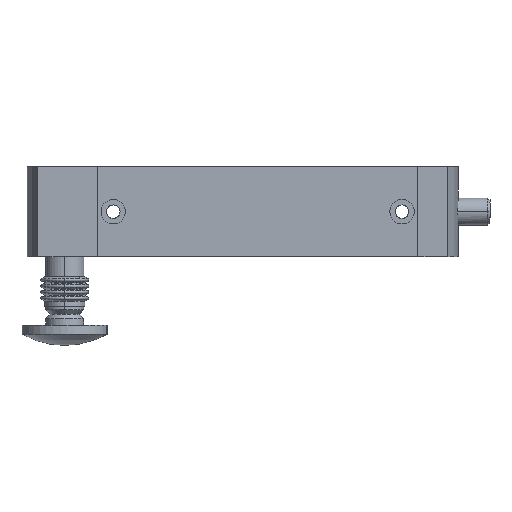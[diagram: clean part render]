
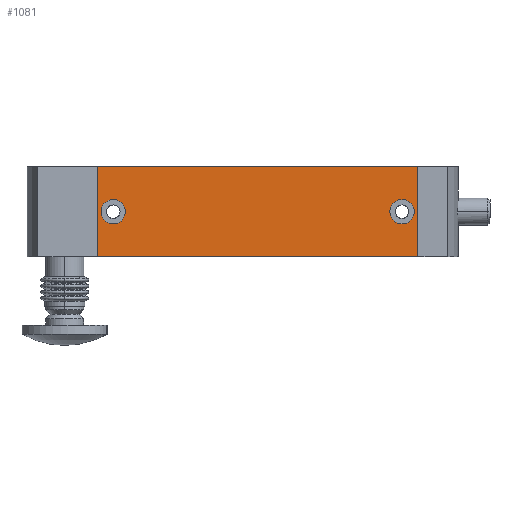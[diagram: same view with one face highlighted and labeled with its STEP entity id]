
A CAD part, left-side view. The second image highlights one B-rep face of the part: STEP entity #1081.
In plain terms, the highlighted planar face has unit normal (-1, 0, 0) as drawn and (0, 0, -1) by its records, which use the part's own axes.
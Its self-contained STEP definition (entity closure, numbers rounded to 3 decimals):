
#36 = AXIS2_PLACEMENT_3D ( 'NONE', #4658, #166, #5397 ) ;
#160 = EDGE_CURVE ( 'NONE', #4403, #347, #9319, .T. ) ;
#166 = DIRECTION ( 'NONE',  ( 0., 0., -1. ) ) ;
#256 = ORIENTED_EDGE ( 'NONE', *, *, #3682, .F. ) ;
#272 = CARTESIAN_POINT ( 'NONE',  ( -58.6, 0., -20. ) ) ;
#347 = VERTEX_POINT ( 'NONE', #2552 ) ;
#552 = DIRECTION ( 'NONE',  ( 0., 0., 1. ) ) ;
#638 = DIRECTION ( 'NONE',  ( -1., 0., 0. ) ) ;
#920 = EDGE_CURVE ( 'NONE', #2456, #7703, #5050, .T. ) ;
#965 = AXIS2_PLACEMENT_3D ( 'NONE', #4727, #5469, #982 ) ;
#982 = DIRECTION ( 'NONE',  ( 1., 0., 0. ) ) ;
#1081 = ADVANCED_FACE ( 'NONE', ( #9570, #5629, #3863 ), #8439, .F. ) ;
#1112 = VERTEX_POINT ( 'NONE', #272 ) ;
#1942 = CIRCLE ( 'NONE', #36, 5.4 ) ;
#2456 = VERTEX_POINT ( 'NONE', #7224 ) ;
#2552 = CARTESIAN_POINT ( 'NONE',  ( -71., 20., -20. ) ) ;
#2565 = CARTESIAN_POINT ( 'NONE',  ( -71., -20., -20. ) ) ;
#2578 = EDGE_CURVE ( 'NONE', #4403, #4777, #4237, .T. ) ;
#2588 = AXIS2_PLACEMENT_3D ( 'NONE', #8448, #3970, #9190 ) ;
#2817 = LINE ( 'NONE', #2565, #8546 ) ;
#2898 = CARTESIAN_POINT ( 'NONE',  ( -71., 20., -20. ) ) ;
#3044 = CARTESIAN_POINT ( 'NONE',  ( 64., 0., -20. ) ) ;
#3127 = VECTOR ( 'NONE', #638, 1000. ) ;
#3164 = AXIS2_PLACEMENT_3D ( 'NONE', #3044, #8267, #3800 ) ;
#3273 = AXIS2_PLACEMENT_3D ( 'NONE', #5036, #552, #5766 ) ;
#3328 = EDGE_CURVE ( 'NONE', #4777, #4549, #2817, .T. ) ;
#3457 = EDGE_CURVE ( 'NONE', #347, #4549, #5387, .T. ) ;
#3682 = EDGE_CURVE ( 'NONE', #4170, #1112, #1942, .T. ) ;
#3759 = CARTESIAN_POINT ( 'NONE',  ( 69.4, 0., -20. ) ) ;
#3800 = DIRECTION ( 'NONE',  ( 1., 0., 0. ) ) ;
#3863 = FACE_BOUND ( 'NONE', #4957, .T. ) ;
#3937 = ORIENTED_EDGE ( 'NONE', *, *, #920, .T. ) ;
#3970 = DIRECTION ( 'NONE',  ( 0., 0., -1. ) ) ;
#4170 = VERTEX_POINT ( 'NONE', #9439 ) ;
#4237 = LINE ( 'NONE', #4653, #8191 ) ;
#4403 = VERTEX_POINT ( 'NONE', #9004 ) ;
#4443 = ORIENTED_EDGE ( 'NONE', *, *, #3457, .F. ) ;
#4549 = VERTEX_POINT ( 'NONE', #4721 ) ;
#4653 = CARTESIAN_POINT ( 'NONE',  ( 71., 20., -20. ) ) ;
#4658 = CARTESIAN_POINT ( 'NONE',  ( -64., 0., -20. ) ) ;
#4718 = CIRCLE ( 'NONE', #2588, 5.4 ) ;
#4721 = CARTESIAN_POINT ( 'NONE',  ( -71., -20., -20. ) ) ;
#4727 = CARTESIAN_POINT ( 'NONE',  ( -71., 20., -20. ) ) ;
#4777 = VERTEX_POINT ( 'NONE', #8963 ) ;
#4797 = ORIENTED_EDGE ( 'NONE', *, *, #3328, .T. ) ;
#4957 = EDGE_LOOP ( 'NONE', ( #3937, #9078 ) ) ;
#4960 = CARTESIAN_POINT ( 'NONE',  ( -71., 20., -20. ) ) ;
#5036 = CARTESIAN_POINT ( 'NONE',  ( 64., 0., -20. ) ) ;
#5050 = CIRCLE ( 'NONE', #3164, 5.4 ) ;
#5216 = ORIENTED_EDGE ( 'NONE', *, *, #7989, .F. ) ;
#5387 = LINE ( 'NONE', #4960, #9352 ) ;
#5397 = DIRECTION ( 'NONE',  ( -1., 0., 0. ) ) ;
#5469 = DIRECTION ( 'NONE',  ( 0., 0., 1. ) ) ;
#5534 = DIRECTION ( 'NONE',  ( -1., 0., 0. ) ) ;
#5629 = FACE_OUTER_BOUND ( 'NONE', #8637, .T. ) ;
#5766 = DIRECTION ( 'NONE',  ( 1., 0., 0. ) ) ;
#5903 = EDGE_CURVE ( 'NONE', #7703, #2456, #9173, .T. ) ;
#6463 = DIRECTION ( 'NONE',  ( 0., -1., 0. ) ) ;
#6714 = ORIENTED_EDGE ( 'NONE', *, *, #160, .F. ) ;
#6885 = DIRECTION ( 'NONE',  ( 0., -1., 0. ) ) ;
#7224 = CARTESIAN_POINT ( 'NONE',  ( 58.6, 0., -20. ) ) ;
#7344 = EDGE_LOOP ( 'NONE', ( #256, #5216 ) ) ;
#7703 = VERTEX_POINT ( 'NONE', #3759 ) ;
#7989 = EDGE_CURVE ( 'NONE', #1112, #4170, #4718, .T. ) ;
#8191 = VECTOR ( 'NONE', #6885, 1000. ) ;
#8267 = DIRECTION ( 'NONE',  ( 0., 0., 1. ) ) ;
#8439 = PLANE ( 'NONE',  #965 ) ;
#8448 = CARTESIAN_POINT ( 'NONE',  ( -64., 0., -20. ) ) ;
#8546 = VECTOR ( 'NONE', #5534, 1000. ) ;
#8637 = EDGE_LOOP ( 'NONE', ( #4797, #4443, #6714, #9630 ) ) ;
#8963 = CARTESIAN_POINT ( 'NONE',  ( 71., -20., -20. ) ) ;
#9004 = CARTESIAN_POINT ( 'NONE',  ( 71., 20., -20. ) ) ;
#9078 = ORIENTED_EDGE ( 'NONE', *, *, #5903, .T. ) ;
#9173 = CIRCLE ( 'NONE', #3273, 5.4 ) ;
#9190 = DIRECTION ( 'NONE',  ( -1., 0., 0. ) ) ;
#9319 = LINE ( 'NONE', #2898, #3127 ) ;
#9352 = VECTOR ( 'NONE', #6463, 1000. ) ;
#9439 = CARTESIAN_POINT ( 'NONE',  ( -69.4, 0., -20. ) ) ;
#9570 = FACE_BOUND ( 'NONE', #7344, .T. ) ;
#9630 = ORIENTED_EDGE ( 'NONE', *, *, #2578, .T. ) ;
